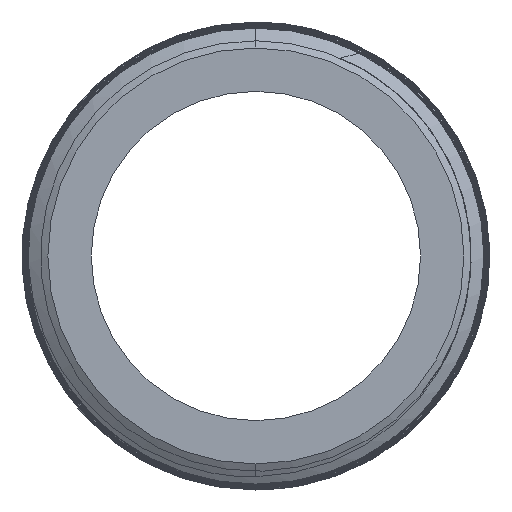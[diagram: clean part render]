
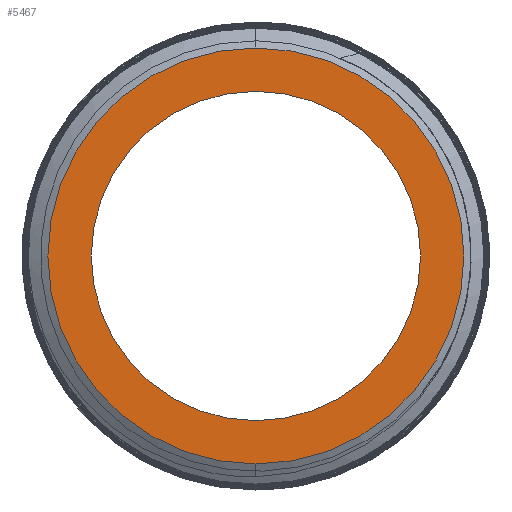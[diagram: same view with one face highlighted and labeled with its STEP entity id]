
A CAD part, left-side view. The second image highlights one B-rep face of the part: STEP entity #5467.
In plain terms, the highlighted planar face has unit normal (-1, 0, 0).
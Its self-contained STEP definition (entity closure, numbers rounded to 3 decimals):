
#159 = CIRCLE ( 'NONE', #5100, 6. ) ;
#362 = CARTESIAN_POINT ( 'NONE',  ( -125., 0., 0. ) ) ;
#699 = VERTEX_POINT ( 'NONE', #6417 ) ;
#1470 = DIRECTION ( 'NONE',  ( 0., 0., 1. ) ) ;
#1572 = DIRECTION ( 'NONE',  ( 0., 0., 1. ) ) ;
#1704 = CARTESIAN_POINT ( 'NONE',  ( -125., 0., 0. ) ) ;
#2984 = AXIS2_PLACEMENT_3D ( 'NONE', #1704, #5530, #1572 ) ;
#3012 = EDGE_LOOP ( 'NONE', ( #6322, #4995 ) ) ;
#3454 = FACE_BOUND ( 'NONE', #6700, .T. ) ;
#3544 = CARTESIAN_POINT ( 'NONE',  ( -125., 0., 0. ) ) ;
#3582 = CARTESIAN_POINT ( 'NONE',  ( -125., 0., 4.75 ) ) ;
#3966 = AXIS2_PLACEMENT_3D ( 'NONE', #3544, #5518, #1470 ) ;
#4021 = PLANE ( 'NONE',  #4672 ) ;
#4052 = EDGE_CURVE ( 'NONE', #5657, #4142, #4101, .T. ) ;
#4101 = CIRCLE ( 'NONE', #6638, 6. ) ;
#4142 = VERTEX_POINT ( 'NONE', #6032 ) ;
#4397 = EDGE_CURVE ( 'NONE', #6230, #699, #8202, .T. ) ;
#4506 = EDGE_CURVE ( 'NONE', #4142, #5657, #159, .T. ) ;
#4511 = DIRECTION ( 'NONE',  ( 0., 0., 1. ) ) ;
#4589 = CARTESIAN_POINT ( 'NONE',  ( -125., 0., -6. ) ) ;
#4672 = AXIS2_PLACEMENT_3D ( 'NONE', #7335, #8131, #7462 ) ;
#4954 = ORIENTED_EDGE ( 'NONE', *, *, #4397, .F. ) ;
#4995 = ORIENTED_EDGE ( 'NONE', *, *, #4506, .T. ) ;
#5004 = EDGE_CURVE ( 'NONE', #699, #6230, #6772, .T. ) ;
#5100 = AXIS2_PLACEMENT_3D ( 'NONE', #362, #8537, #4511 ) ;
#5467 = ADVANCED_FACE ( 'NONE', ( #3454, #8709 ), #4021, .F. ) ;
#5518 = DIRECTION ( 'NONE',  ( -1., 0., 0. ) ) ;
#5530 = DIRECTION ( 'NONE',  ( -1., 0., 0. ) ) ;
#5657 = VERTEX_POINT ( 'NONE', #4589 ) ;
#5949 = ORIENTED_EDGE ( 'NONE', *, *, #5004, .F. ) ;
#6032 = CARTESIAN_POINT ( 'NONE',  ( -125., 0., 6. ) ) ;
#6230 = VERTEX_POINT ( 'NONE', #3582 ) ;
#6322 = ORIENTED_EDGE ( 'NONE', *, *, #4052, .T. ) ;
#6417 = CARTESIAN_POINT ( 'NONE',  ( -125., 0., -4.75 ) ) ;
#6638 = AXIS2_PLACEMENT_3D ( 'NONE', #8614, #7321, #7280 ) ;
#6700 = EDGE_LOOP ( 'NONE', ( #4954, #5949 ) ) ;
#6772 = CIRCLE ( 'NONE', #2984, 4.75 ) ;
#7280 = DIRECTION ( 'NONE',  ( 0., 0., 1. ) ) ;
#7321 = DIRECTION ( 'NONE',  ( -1., 0., 0. ) ) ;
#7335 = CARTESIAN_POINT ( 'NONE',  ( -125., 4.75, 0. ) ) ;
#7462 = DIRECTION ( 'NONE',  ( 0., 0., -1. ) ) ;
#8131 = DIRECTION ( 'NONE',  ( 1., 0., 0. ) ) ;
#8202 = CIRCLE ( 'NONE', #3966, 4.75 ) ;
#8537 = DIRECTION ( 'NONE',  ( -1., 0., 0. ) ) ;
#8614 = CARTESIAN_POINT ( 'NONE',  ( -125., 0., 0. ) ) ;
#8709 = FACE_OUTER_BOUND ( 'NONE', #3012, .T. ) ;
